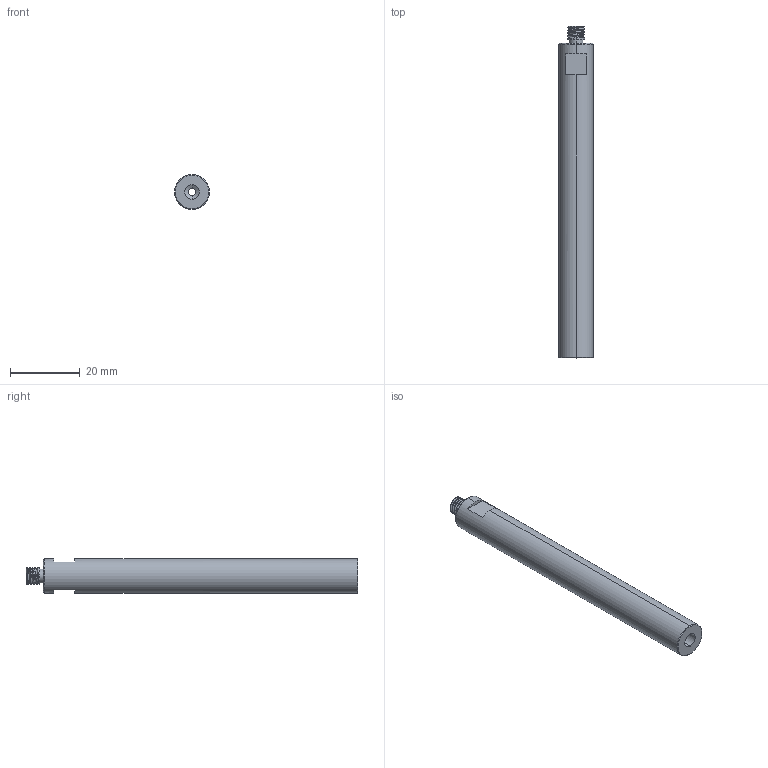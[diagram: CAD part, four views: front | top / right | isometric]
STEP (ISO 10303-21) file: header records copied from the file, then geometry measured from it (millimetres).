
FILE_DESCRIPTION (( 'STEP AP214' ), '1' );
FILE_NAME ('SMBY1095M5.STEP', '2022-12-05T08:03:12', ( '微软用户' ), ( '微软中国' ), 'SwSTEP 2.0', 'SolidWorks 2018', '' );
FILE_SCHEMA (( 'AUTOMOTIVE_DESIGN' ));
Length unit declared in the file: millimetre
Products named in the file (2): SMBY1095M5
Bounding box: 10 x 95 x 10 mm (x, y, z)
Volume: 5840.7 mm3; surface area: 4314.5 mm2
Topology: 1 solids, 1 shells, 46 faces, 109 edges, 68 vertices
Faces by surface type: cylinder 21, plane 12, cone 6, torus 4, bspline 3
Entity records: 2860 total; most frequent: CARTESIAN_POINT 1769, DIRECTION 218, ORIENTED_EDGE 218, EDGE_CURVE 109, AXIS2_PLACEMENT_3D 89, VERTEX_POINT 68, EDGE_LOOP 51, ADVANCED_FACE 46
